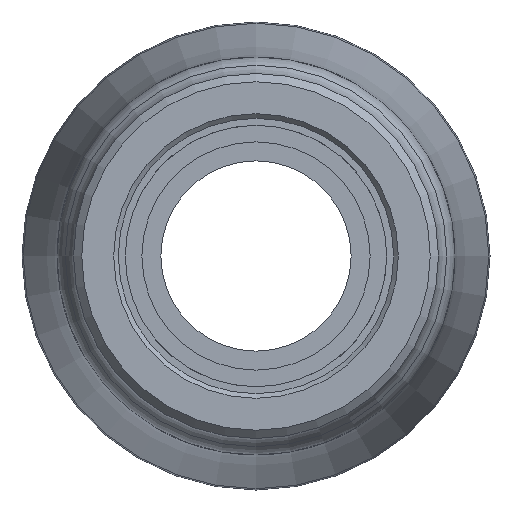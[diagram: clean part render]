
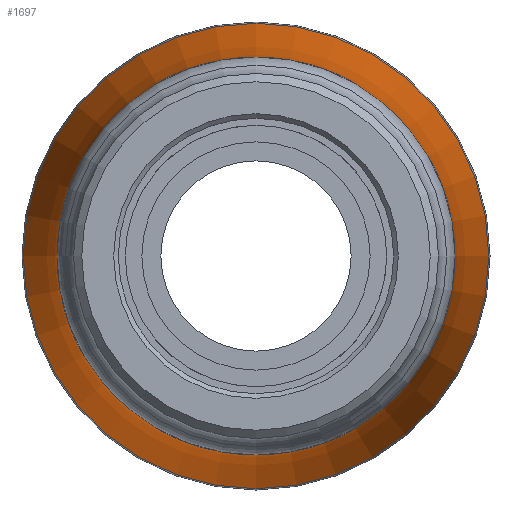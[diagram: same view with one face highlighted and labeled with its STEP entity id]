
A CAD part, left-side view. The second image highlights one B-rep face of the part: STEP entity #1697.
In plain terms, the highlighted toroidal (fillet/blend) face has major radius 129.728 mm and minor radius 112.303 mm.
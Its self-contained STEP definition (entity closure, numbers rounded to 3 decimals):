
#19=TOROIDAL_SURFACE('',#1902,129.728,112.303);
#273=FACE_BOUND('',#517,.T.);
#381=FACE_OUTER_BOUND('',#516,.T.);
#516=EDGE_LOOP('',(#1551));
#517=EDGE_LOOP('',(#1552));
#575=CIRCLE('',#1792,17.425);
#576=CIRCLE('',#1794,20.392);
#750=VERTEX_POINT('',#2869);
#751=VERTEX_POINT('',#2872);
#925=EDGE_CURVE('',#750,#750,#575,.T.);
#926=EDGE_CURVE('',#751,#751,#576,.T.);
#1551=ORIENTED_EDGE('',*,*,#926,.F.);
#1552=ORIENTED_EDGE('',*,*,#925,.T.);
#1697=ADVANCED_FACE('',(#381,#273),#19,.F.);
#1792=AXIS2_PLACEMENT_3D('',#2870,#2105,#2106);
#1794=AXIS2_PLACEMENT_3D('',#2873,#2109,#2110);
#1902=AXIS2_PLACEMENT_3D('',#3807,#2389,#2390);
#2105=DIRECTION('center_axis',(1.,0.,0.));
#2106=DIRECTION('ref_axis',(0.,0.,-1.));
#2109=DIRECTION('center_axis',(1.,0.,0.));
#2110=DIRECTION('ref_axis',(0.,-1.,0.));
#2389=DIRECTION('center_axis',(1.,0.,0.));
#2390=DIRECTION('ref_axis',(0.,0.,-1.));
#2869=CARTESIAN_POINT('',(35.,17.425,0.));
#2870=CARTESIAN_POINT('Origin',(35.,0.,0.));
#2872=CARTESIAN_POINT('',(60.642,20.392,0.));
#2873=CARTESIAN_POINT('Origin',(60.642,0.,0.));
#3807=CARTESIAN_POINT('Origin',(35.,0.,0.));
